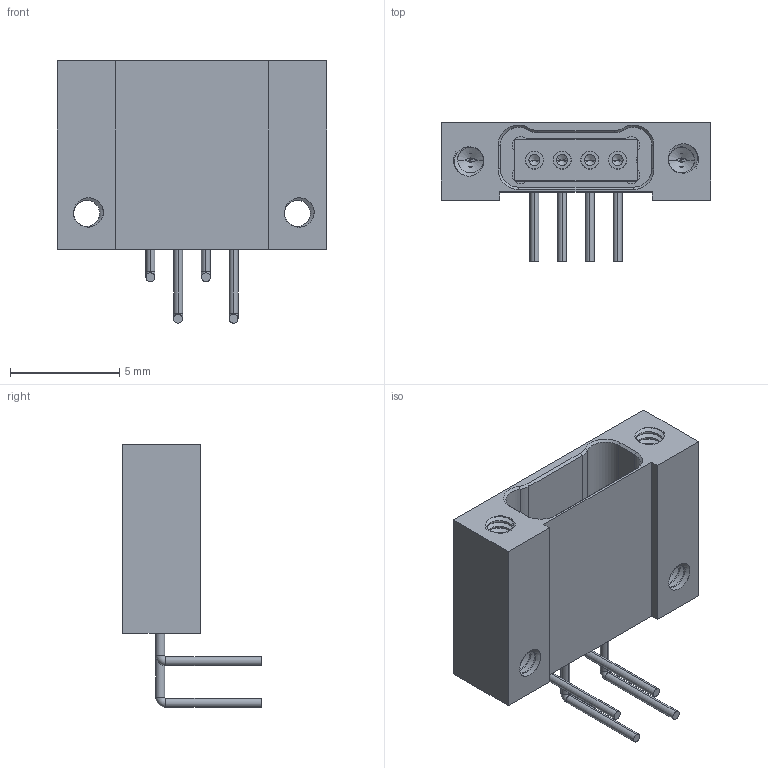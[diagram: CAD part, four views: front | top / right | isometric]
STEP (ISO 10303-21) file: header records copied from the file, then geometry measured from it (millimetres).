
FILE_DESCRIPTION (( 'STEP AP214' ), '1' );
FILE_NAME ('A92004-004 REV A.STEP', '2021-02-26T20:16:49', ( '' ), ( '' ), 'SwSTEP 2.0', 'SolidWorks 2019', '' );
FILE_SCHEMA (( 'AUTOMOTIVE_DESIGN' ));
Length unit declared in the file: inch
Products named in the file (1): A92004-004 REV A
Bounding box: 12.32 x 6.36 x 12.01 mm (x, y, z)
Volume: 245.2 mm3; surface area: 749.7 mm2
Topology: 1 solids, 2 shells, 411 faces, 1100 edges, 716 vertices
Faces by surface type: plane 165, cylinder 152, bspline 59, cone 18, torus 17
Entity records: 27327 total; most frequent: CARTESIAN_POINT 12591, ORIENTED_EDGE 2184, DIRECTION 1621, EDGE_CURVE 1092, VERTEX_POINT 716, VECTOR 605, LINE 605, AXIS2_PLACEMENT_3D 508
